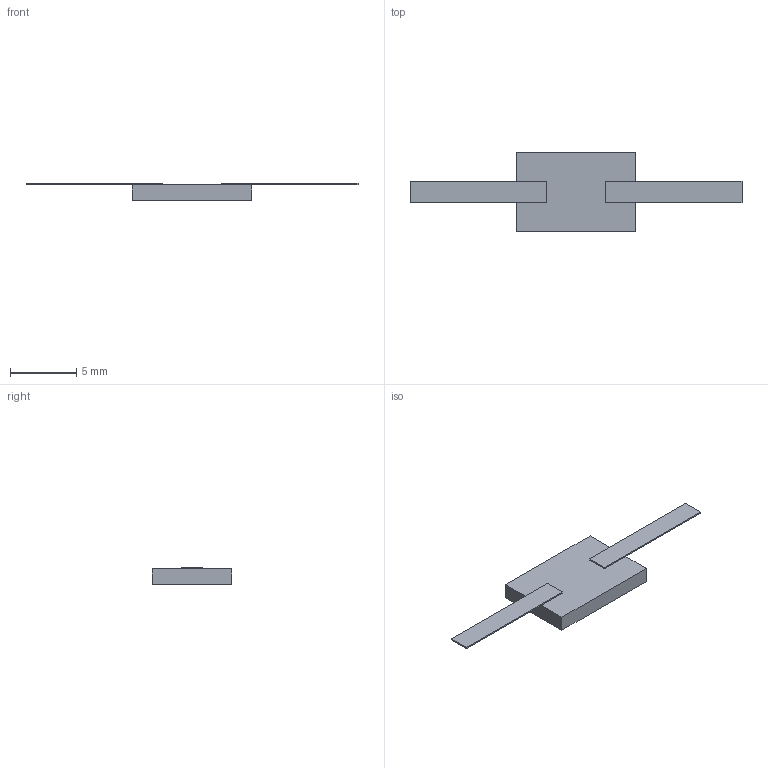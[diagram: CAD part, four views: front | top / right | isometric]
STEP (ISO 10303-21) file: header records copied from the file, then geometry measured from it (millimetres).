
FILE_DESCRIPTION(('STEP AP203'), '1');
FILE_NAME('Ð1-17-150-1', '', ('UNSPECIFIED'), ('UNSPECIFIED'), 'ASCON STEP Converter 1.6', 'ASCON Math Kernel', '');
FILE_SCHEMA(('CONFIG_CONTROL_DESIGN'));
Length unit declared in the file: millimetre
Bounding box: 25 x 6 x 1.3 mm (x, y, z)
Volume: 68 mm3; surface area: 209.3 mm2
Topology: 1 solids, 2 shells, 37 faces, 95 edges, 62 vertices
Faces by surface type: plane 33, cylinder 4
Entity records: 1447 total; most frequent: CARTESIAN_POINT 195, ORIENTED_EDGE 190, DIRECTION 179, EDGE_CURVE 95, LINE 87, VECTOR 87, VERTEX_POINT 62, AXIS2_PLACEMENT_3D 46
